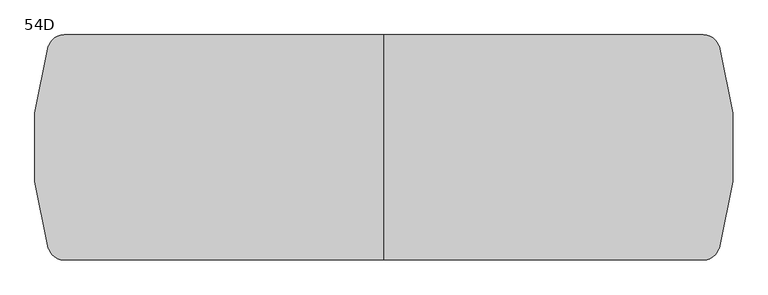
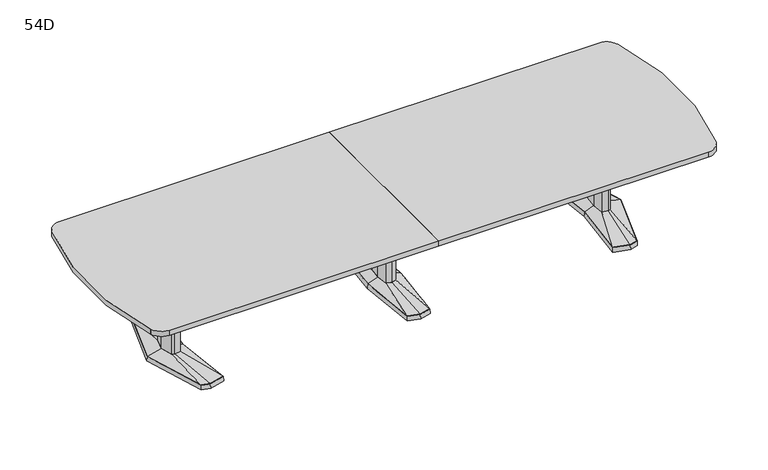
"""IFC4 building model written with IfcOpenShell, lengths in millimetres: furniture geometry, Coalesse_AM_Table_Conference_ETable2_SoftRadiused_14ft_AluminiumBase : 54D."""

from ifc_helpers import new_model, si_unit, point, frame, frame_2d, origin, place, context, project, spatial, polyline, circle_curve, trimmed, segment, composite_curve, outline, extrude, faceted_brep, source, transform, mapped, element, save
from ifc_brep_helpers import plane_surface, spline_surface, advanced_brep


def furniture_54d_6063a3c7(model_context):
    return source(origin(), model_context, "Body", "SolidModel", [
        faceted_brep([(-81.2333791, -433.8053819, 38.1), (0.0, -455.556576, 38.1), (81.2333791, -433.8053819, 38.1), (119.0564774, 0.0, 38.1), (81.2333791, 433.8053819, 38.1), (0.0, 455.556576, 38.1), (-81.2333791, 433.8053819, 38.1), (-119.0564774, 0.0, 38.1), (-82.7182795, -435.0512063, 3.175), (-120.65, 0.0, 3.175), (-82.7182795, 435.0512063, 3.175), (0.0, 457.2, 3.175), (82.7182795, 435.0512063, 3.175), (120.65, 0.0, 3.175), (82.7182795, -435.0512063, 3.175), (0.0, -457.2, 3.175), (0.0, 429.2617927, 3.175), (-77.9676806, 408.3850278, 3.175), (-74.7019821, 382.9646737, 3.175), (0.0, 402.9670094, 3.175), (74.7019821, 382.9646737, 3.175), (77.9676806, 408.3850278, 3.175), (0.0, -429.2617927, 3.175), (77.9676806, -408.3850278, 3.175), (74.7019821, -382.9646737, 3.175), (0.0, -402.9670094, 3.175), (-74.7019821, -382.9646737, 3.175), (-77.9676806, -408.3850278, 3.175), (-71.8574262, 114.6326257, 3.175), (-82.5426076, 0.0, 3.175), (-71.8574262, -114.6326257, 3.175), (0.0, -133.8761372, 3.175), (71.8574262, -114.6326257, 3.175), (82.5426076, 0.0, 3.175), (71.8574262, 114.6326257, 3.175), (0.0, 133.8761372, 3.175), (0.0, 429.2617927, 0.0), (77.9676806, 408.3850278, 0.0), (74.7019821, 382.9646737, 0.0), (0.0, 402.9670094, 0.0), (-74.7019821, 382.9646737, 0.0), (-77.9676806, 408.3850278, 0.0), (0.0, -429.2617927, 0.0), (-77.9676806, -408.3850278, 0.0), (-74.7019821, -382.9646737, 0.0), (0.0, -402.9670094, 0.0), (74.7019821, -382.9646737, 0.0), (77.9676806, -408.3850278, 0.0), (-71.8574262, 114.6326257, 0.0), (0.0, 133.8761372, 0.0), (71.8574262, 114.6326257, 0.0), (82.5426076, 0.0, 0.0), (71.8574262, -114.6326257, 0.0), (0.0, -133.8761372, 0.0), (-71.8574262, -114.6326257, 0.0), (-82.5426076, 0.0, 0.0)], [[[0, 1, 2, 3, 4, 5, 6, 7]], [[8, 9, 10, 11, 12, 13, 14, 15], [16, 17, 18, 19, 20, 21], [22, 23, 24, 25, 26, 27], [28, 29, 30, 31, 32, 33, 34, 35]], [[1, 0, 8, 15]], [[2, 1, 15, 14]], [[3, 2, 14, 13]], [[4, 3, 13, 12]], [[5, 4, 12, 11]], [[6, 5, 11, 10]], [[7, 6, 10, 9]], [[0, 7, 9, 8]], [[36, 37, 38, 39, 40, 41]], [[42, 43, 44, 45, 46, 47]], [[48, 49, 50, 51, 52, 53, 54, 55]], [[36, 41, 17, 16]], [[41, 40, 18, 17]], [[40, 39, 19, 18]], [[39, 38, 20, 19]], [[38, 37, 21, 20]], [[37, 36, 16, 21]], [[42, 47, 23, 22]], [[47, 46, 24, 23]], [[46, 45, 25, 24]], [[45, 44, 26, 25]], [[44, 43, 27, 26]], [[43, 42, 22, 27]], [[48, 55, 29, 28]], [[55, 54, 30, 29]], [[54, 53, 31, 30]], [[53, 52, 32, 31]], [[52, 51, 33, 32]], [[51, 50, 34, 33]], [[50, 49, 35, 34]], [[49, 48, 28, 35]]]),
        faceted_brep([(-36.3832834, 84.6900825, 698.5), (-44.2774487, 0.0, 698.5), (-36.3832834, -84.6900825, 698.5), (0.0, -94.4335728, 698.5), (36.3832834, -84.6900825, 698.5), (44.2774487, 0.0, 698.5), (36.3832834, 84.6900825, 698.5), (0.0, 94.4335728, 698.5), (-36.3832834, 84.6900825, 63.5), (0.0, 94.4335728, 63.5), (36.3832834, 84.6900825, 63.5), (44.2774487, 0.0, 63.5), (36.3832834, -84.6900825, 63.5), (0.0, -94.4335728, 63.5), (-36.3832834, -84.6900825, 63.5), (-44.2774487, 0.0, 63.5)], [[[0, 1, 2, 3, 4, 5, 6, 7]], [[8, 9, 10, 11, 12, 13, 14, 15]], [[1, 0, 8, 15]], [[2, 1, 15, 14]], [[3, 2, 14, 13]], [[4, 3, 13, 12]], [[5, 4, 12, 11]], [[6, 5, 11, 10]], [[7, 6, 10, 9]], [[0, 7, 9, 8]]]),
        advanced_brep(
        [(-36.3832834, 84.6900825, 63.5), (-44.2774487, 0.0, 63.5), (-36.3832834, -84.6900825, 63.5), (0.0, -94.4335728, 63.5), (36.3832834, -84.6900825, 63.5), (44.2774487, 0.0, 63.5), (36.3832834, 84.6900825, 63.5), (0.0, 94.4335728, 63.5), (-81.2333791, 433.8053819, 38.1), (0.0, 455.556576, 38.1), (81.2333791, 433.8053819, 38.1), (119.0564774, 0.0, 38.1), (81.2333791, -433.8053819, 38.1), (0.0, -455.556576, 38.1), (-81.2333791, -433.8053819, 38.1), (-119.0564774, 0.0, 38.1)],
        [
            (0, 1),
            (1, 2),
            (2, 3),
            (3, 4),
            (4, 5),
            (5, 6),
            (6, 7),
            (7, 0),
            (8, 9),
            (9, 10),
            (10, 11),
            (11, 12),
            (12, 13),
            (13, 14),
            (14, 15),
            (15, 8),
            (15, 1),
            (0, 8),
            (14, 2),
            (13, 3),
            (12, 4),
            (11, 5),
            (10, 6),
            (9, 7),
        ],
        [
            plane_surface(frame((0.0, 0.0, 63.5), z_axis=(0.0, 0.0, 1.0000000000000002), x_axis=(-0.9659615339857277, -0.25868574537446, 0.0))),
            plane_surface(frame((0.0, 0.0, 38.1), z_axis=(0.0, 0.0, -1.0000000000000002), x_axis=(-0.9659615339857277, -0.25868574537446, 0.0))),
            spline_surface(1, 1, [[(-81.2333791, 433.8053819, 38.1), (-36.3832834, 84.6900825, 63.5)], [(-119.0564774, 0.0, 38.1), (-44.2774487, 0.0, 63.5)]], [2, 2], [2, 2], [0.0, 1.0], [0.0, 1.0]),
            spline_surface(1, 1, [[(-119.0564774, 0.0, 38.1), (-44.2774487, 0.0, 63.5)], [(-81.2333791, -433.8053819, 38.1), (-36.3832834, -84.6900825, 63.5)]], [2, 2], [2, 2], [0.0, 1.0], [0.0, 1.0]),
            spline_surface(1, 1, [[(-81.2333791, -433.8053819, 38.1), (-36.3832834, -84.6900825, 63.5)], [(0.0, -455.556576, 38.1), (0.0, -94.4335728, 63.5)]], [2, 2], [2, 2], [0.0, 1.0], [0.0, 1.0]),
            spline_surface(1, 1, [[(0.0, -455.556576, 38.1), (0.0, -94.4335728, 63.5)], [(81.2333791, -433.8053819, 38.1), (36.3832834, -84.6900825, 63.5)]], [2, 2], [2, 2], [0.0, 1.0], [0.0, 1.0]),
            spline_surface(1, 1, [[(81.2333791, -433.8053819, 38.1), (36.3832834, -84.6900825, 63.5)], [(119.0564774, 0.0, 38.1), (44.2774487, 0.0, 63.5)]], [2, 2], [2, 2], [0.0, 1.0], [0.0, 1.0]),
            spline_surface(1, 1, [[(119.0564774, 0.0, 38.1), (44.2774487, 0.0, 63.5)], [(81.2333791, 433.8053819, 38.1), (36.3832834, 84.6900825, 63.5)]], [2, 2], [2, 2], [0.0, 1.0], [0.0, 1.0]),
            spline_surface(1, 1, [[(81.2333791, 433.8053819, 38.1), (36.3832834, 84.6900825, 63.5)], [(0.0, 455.556576, 38.1), (0.0, 94.4335728, 63.5)]], [2, 2], [2, 2], [0.0, 1.0], [0.0, 1.0]),
            spline_surface(1, 1, [[(0.0, 455.556576, 38.1), (0.0, 94.4335728, 63.5)], [(-81.2333791, 433.8053819, 38.1), (-36.3832834, 84.6900825, 63.5)]], [2, 2], [2, 2], [0.0, 1.0], [0.0, 1.0]),
        ],
        [
            (0, [[1, 2, 3, 4, 5, 6, 7, 8]]),
            (1, [[9, 10, 11, 12, 13, 14, 15, 16]]),
            (2, [[-16, 17, -1, 18]]),
            (3, [[-15, 19, -2, -17]]),
            (4, [[-14, 20, -3, -19]]),
            (5, [[-13, 21, -4, -20]]),
            (6, [[-12, 22, -5, -21]]),
            (7, [[-11, 23, -6, -22]]),
            (8, [[-10, 24, -7, -23]]),
            (9, [[-9, -18, -8, -24]]),
        ],
    ),
        faceted_brep([(1515.4306835, 455.5848221, 38.1), (1405.8531277, 426.2263816, 38.1), (1447.0163717, 0.0, 38.1), (1405.8531277, -426.2263816, 38.1), (1515.4306835, -455.5848221, 38.1), (1571.5570396, -440.5478297, 38.1), (1708.8684269, 0.0, 38.1), (1571.5570396, 440.5478297, 38.1), (1515.4306754, 457.2283104, 3.175), (1572.8124472, 441.8549756, 3.175), (1710.53125, 0.0, 3.175), (1572.8124472, -441.8549756, 3.175), (1515.4306754, -457.2283104, 3.175), (1404.14375, -427.4118891, 3.175), (1445.4214856, 0.0, 3.175), (1404.14375, 427.4118891, 3.175), (1519.020115, 428.3273875, 3.175), (1413.9718228, 402.1057253, 3.175), (1422.090518, 377.985069, 3.175), (1522.6095466, 401.0699529, 3.175), (1573.1691725, 387.524361, 3.175), (1572.3631061, 414.0360954, 3.175), (1519.020115, -428.3273875, 3.175), (1572.3631061, -414.0360954, 3.175), (1573.1691725, -387.524361, 3.175), (1522.6095466, -401.0699529, 3.175), (1422.090518, -377.985069, 3.175), (1413.9718228, -402.1057253, 3.175), (1645.6153621, 0.0, 3.175), (1613.3459611, 120.4193755, 3.175), (1564.6987222, 133.471665, 3.175), (1484.8180526, 119.4176561, 3.175), (1473.6868466, 0.0, 3.175), (1484.8180526, -119.4176561, 3.175), (1564.6987222, -133.471665, 3.175), (1613.3459611, -120.4193755, 3.175), (1519.020115, 428.3273875, 0.0), (1572.3631061, 414.0360954, 0.0), (1573.1691725, 387.524361, 0.0), (1522.6095466, 401.0699529, 0.0), (1422.090518, 377.985069, 0.0), (1413.9718228, 402.1057253, 0.0), (1519.020115, -428.3273875, 0.0), (1413.9718228, -402.1057253, 0.0), (1422.090518, -377.985069, 0.0), (1522.6095466, -401.0699529, 0.0), (1573.1691725, -387.524361, 0.0), (1572.3631061, -414.0360954, 0.0), (1645.6153621, 0.0, 0.0), (1613.3459611, -120.4193755, 0.0), (1564.6987222, -133.471665, 0.0), (1484.8180526, -119.4176561, 0.0), (1473.6868466, 0.0, 0.0), (1484.8180526, 119.4176561, 0.0), (1564.6987222, 133.471665, 0.0), (1613.3459611, 120.4193755, 0.0)], [[[0, 1, 2, 3, 4, 5, 6, 7]], [[8, 9, 10, 11, 12, 13, 14, 15], [16, 17, 18, 19, 20, 21], [22, 23, 24, 25, 26, 27], [28, 29, 30, 31, 32, 33, 34, 35]], [[7, 9, 8, 0]], [[6, 10, 9, 7]], [[5, 11, 10, 6]], [[4, 12, 11, 5]], [[3, 13, 12, 4]], [[2, 14, 13, 3]], [[1, 15, 14, 2]], [[0, 8, 15, 1]], [[36, 37, 38, 39, 40, 41]], [[42, 43, 44, 45, 46, 47]], [[48, 49, 50, 51, 52, 53, 54, 55]], [[36, 16, 21, 37]], [[37, 21, 20, 38]], [[38, 20, 19, 39]], [[39, 19, 18, 40]], [[40, 18, 17, 41]], [[41, 17, 16, 36]], [[42, 22, 27, 43]], [[43, 27, 26, 44]], [[44, 26, 25, 45]], [[45, 25, 24, 46]], [[46, 24, 23, 47]], [[47, 23, 22, 42]], [[48, 28, 35, 49]], [[49, 35, 34, 50]], [[50, 34, 33, 51]], [[51, 33, 32, 52]], [[52, 32, 31, 53]], [[53, 31, 30, 54]], [[54, 30, 29, 55]], [[55, 29, 28, 48]]]),
        faceted_brep([(1606.1710836, 0.0, 698.5), (1582.2358546, 89.3188359, 698.5), (1565.3824984, 93.8406728, 698.5), (1562.9826511, 94.4845635, 698.5), (1520.055146, 86.9320037, 698.5), (1511.9520056, 0.0, 698.5), (1520.055146, -86.9320037, 698.5), (1562.9826511, -94.4845635, 698.5), (1565.3824984, -93.8406728, 698.5), (1582.2358546, -89.3188359, 698.5), (1606.1710836, 0.0, 63.5), (1582.2358546, -89.3188359, 63.5), (1565.3824984, -93.8406728, 63.5), (1562.9826511, -94.4845635, 63.5), (1520.055146, -86.9320037, 63.5), (1511.9520056, 0.0, 63.5), (1520.055146, 86.9320037, 63.5), (1562.9826511, 94.4845635, 63.5), (1565.3824984, 93.8406728, 63.5), (1582.2358546, 89.3188359, 63.5)], [[[0, 1, 2, 3, 4, 5, 6, 7, 8, 9]], [[10, 11, 12, 13, 14, 15, 16, 17, 18, 19]], [[9, 11, 10, 0]], [[8, 12, 11, 9]], [[7, 13, 12, 8]], [[6, 14, 13, 7]], [[5, 15, 14, 6]], [[4, 16, 15, 5]], [[3, 17, 16, 4]], [[2, 18, 17, 3]], [[1, 19, 18, 2]], [[0, 10, 19, 1]]]),
        advanced_brep(
        [(1562.9826511, 94.4845635, 63.5), (1520.055146, 86.9320037, 63.5), (1511.9520056, 0.0, 63.5), (1520.055146, -86.9320037, 63.5), (1562.9826511, -94.4845635, 63.5), (1582.2358546, -89.3188359, 63.5), (1606.1710836, 0.0, 63.5), (1582.2358546, 89.3188359, 63.5), (1515.4306835, 455.5848221, 38.1), (1571.5570396, 440.5478297, 38.1), (1708.8684269, 0.0, 38.1), (1571.5570396, -440.5478297, 38.1), (1515.4306835, -455.5848221, 38.1), (1405.8531277, -426.2263816, 38.1), (1447.0163717, 0.0, 38.1), (1405.8531277, 426.2263816, 38.1)],
        [
            (0, 1),
            (1, 2),
            (2, 3),
            (3, 4),
            (4, 5),
            (5, 6),
            (6, 7),
            (7, 0),
            (8, 9),
            (9, 10),
            (10, 11),
            (11, 12),
            (12, 13),
            (13, 14),
            (14, 15),
            (15, 8),
            (8, 0),
            (7, 9),
            (6, 10),
            (5, 11),
            (4, 12),
            (3, 13),
            (2, 14),
            (1, 15),
        ],
        [
            plane_surface(frame((1556.0837991, 0.0, 63.5), z_axis=(0.0, 0.0, 1.0), x_axis=(-0.25884244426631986, -0.9659195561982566, 0.0))),
            plane_surface(frame((1517.6958125, 0.0, 38.1), z_axis=(0.0, 0.0, -1.0), x_axis=(-0.25884244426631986, -0.9659195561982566, 0.0))),
            spline_surface(1, 1, [[(1515.4306835, 455.5848221, 38.1), (1571.5570396, 440.5478297, 38.1)], [(1562.9826511, 94.4845635, 63.5), (1582.2358546, 89.3188359, 63.5)]], [2, 2], [2, 2], [0.0, 1.0], [0.0, 1.0]),
            spline_surface(1, 1, [[(1571.5570396, 440.5478297, 38.1), (1708.8684269, 0.0, 38.1)], [(1582.2358546, 89.3188359, 63.5), (1606.1710836, 0.0, 63.5)]], [2, 2], [2, 2], [0.0, 1.0], [0.0, 1.0]),
            spline_surface(1, 1, [[(1708.8684269, 0.0, 38.1), (1571.5570396, -440.5478297, 38.1)], [(1606.1710836, 0.0, 63.5), (1582.2358546, -89.3188359, 63.5)]], [2, 2], [2, 2], [0.0, 1.0], [0.0, 1.0]),
            spline_surface(1, 1, [[(1571.5570396, -440.5478297, 38.1), (1515.4306835, -455.5848221, 38.1)], [(1582.2358546, -89.3188359, 63.5), (1562.9826511, -94.4845635, 63.5)]], [2, 2], [2, 2], [0.0, 1.0], [0.0, 1.0]),
            spline_surface(1, 1, [[(1515.4306835, -455.5848221, 38.1), (1405.8531277, -426.2263816, 38.1)], [(1562.9826511, -94.4845635, 63.5), (1520.055146, -86.9320037, 63.5)]], [2, 2], [2, 2], [0.0, 1.0], [0.0, 1.0]),
            spline_surface(1, 1, [[(1405.8531277, -426.2263816, 38.1), (1447.0163717, 0.0, 38.1)], [(1520.055146, -86.9320037, 63.5), (1511.9520056, 0.0, 63.5)]], [2, 2], [2, 2], [0.0, 1.0], [0.0, 1.0]),
            spline_surface(1, 1, [[(1447.0163717, 0.0, 38.1), (1405.8531277, 426.2263816, 38.1)], [(1511.9520056, 0.0, 63.5), (1520.055146, 86.9320037, 63.5)]], [2, 2], [2, 2], [0.0, 1.0], [0.0, 1.0]),
            spline_surface(1, 1, [[(1405.8531277, 426.2263816, 38.1), (1515.4306835, 455.5848221, 38.1)], [(1520.055146, 86.9320037, 63.5), (1562.9826511, 94.4845635, 63.5)]], [2, 2], [2, 2], [0.0, 1.0], [0.0, 1.0]),
        ],
        [
            (0, [[1, 2, 3, 4, 5, 6, 7, 8]]),
            (1, [[9, 10, 11, 12, 13, 14, 15, 16]]),
            (2, [[17, -8, 18, -9]]),
            (3, [[-18, -7, 19, -10]]),
            (4, [[-19, -6, 20, -11]]),
            (5, [[-20, -5, 21, -12]]),
            (6, [[-21, -4, 22, -13]]),
            (7, [[-22, -3, 23, -14]]),
            (8, [[-23, -2, 24, -15]]),
            (9, [[-24, -1, -17, -16]]),
        ],
    ),
        faceted_brep([(-1515.4306835, 455.5848221, 38.1), (-1571.5570396, 440.5478297, 38.1), (-1708.8684269, 0.0, 38.1), (-1571.5570396, -440.5478297, 38.1), (-1515.4306835, -455.5848221, 38.1), (-1405.8531277, -426.2263816, 38.1), (-1447.0163717, 0.0, 38.1), (-1405.8531277, 426.2263816, 38.1), (-1515.4306754, 457.2283104, 3.175), (-1404.14375, 427.4118891, 3.175), (-1445.4214856, 0.0, 3.175), (-1404.14375, -427.4118891, 3.175), (-1515.4306754, -457.2283104, 3.175), (-1572.8124472, -441.8549756, 3.175), (-1710.53125, 0.0, 3.175), (-1572.8124472, 441.8549756, 3.175), (-1519.020115, 428.3273875, 3.175), (-1572.3631061, 414.0360954, 3.175), (-1573.1691725, 387.524361, 3.175), (-1522.6095466, 401.0699529, 3.175), (-1422.090518, 377.985069, 3.175), (-1413.9718228, 402.1057253, 3.175), (-1519.020115, -428.3273875, 3.175), (-1413.9718228, -402.1057253, 3.175), (-1422.090518, -377.985069, 3.175), (-1522.6095466, -401.0699529, 3.175), (-1573.1691725, -387.524361, 3.175), (-1572.3631061, -414.0360954, 3.175), (-1645.6153621, 0.0, 3.175), (-1613.3459611, -120.4193755, 3.175), (-1564.6987222, -133.471665, 3.175), (-1484.8180526, -119.4176561, 3.175), (-1473.6868466, 0.0, 3.175), (-1484.8180526, 119.4176561, 3.175), (-1564.6987222, 133.471665, 3.175), (-1613.3459611, 120.4193755, 3.175), (-1519.020115, 428.3273875, 0.0), (-1413.9718228, 402.1057253, 0.0), (-1422.090518, 377.985069, 0.0), (-1522.6095466, 401.0699529, 0.0), (-1573.1691725, 387.524361, 0.0), (-1572.3631061, 414.0360954, 0.0), (-1519.020115, -428.3273875, 0.0), (-1572.3631061, -414.0360954, 0.0), (-1573.1691725, -387.524361, 0.0), (-1522.6095466, -401.0699529, 0.0), (-1422.090518, -377.985069, 0.0), (-1413.9718228, -402.1057253, 0.0), (-1645.6153621, 0.0, 0.0), (-1613.3459611, 120.4193755, 0.0), (-1564.6987222, 133.471665, 0.0), (-1484.8180526, 119.4176561, 0.0), (-1473.6868466, 0.0, 0.0), (-1484.8180526, -119.4176561, 0.0), (-1564.6987222, -133.471665, 0.0), (-1613.3459611, -120.4193755, 0.0)], [[[0, 1, 2, 3, 4, 5, 6, 7]], [[8, 9, 10, 11, 12, 13, 14, 15], [16, 17, 18, 19, 20, 21], [22, 23, 24, 25, 26, 27], [28, 29, 30, 31, 32, 33, 34, 35]], [[1, 0, 8, 15]], [[2, 1, 15, 14]], [[3, 2, 14, 13]], [[4, 3, 13, 12]], [[5, 4, 12, 11]], [[6, 5, 11, 10]], [[7, 6, 10, 9]], [[0, 7, 9, 8]], [[36, 37, 38, 39, 40, 41]], [[42, 43, 44, 45, 46, 47]], [[48, 49, 50, 51, 52, 53, 54, 55]], [[36, 41, 17, 16]], [[41, 40, 18, 17]], [[40, 39, 19, 18]], [[39, 38, 20, 19]], [[38, 37, 21, 20]], [[37, 36, 16, 21]], [[42, 47, 23, 22]], [[47, 46, 24, 23]], [[46, 45, 25, 24]], [[45, 44, 26, 25]], [[44, 43, 27, 26]], [[43, 42, 22, 27]], [[48, 55, 29, 28]], [[55, 54, 30, 29]], [[54, 53, 31, 30]], [[53, 52, 32, 31]], [[52, 51, 33, 32]], [[51, 50, 34, 33]], [[50, 49, 35, 34]], [[49, 48, 28, 35]]]),
        faceted_brep([(-1606.1710836, 0.0, 698.5), (-1582.2358546, -89.3188359, 698.5), (-1565.3824984, -93.8406728, 698.5), (-1562.9826511, -94.4845635, 698.5), (-1520.055146, -86.9320037, 698.5), (-1511.9520056, 0.0, 698.5), (-1520.055146, 86.9320037, 698.5), (-1562.9826511, 94.4845635, 698.5), (-1565.3824984, 93.8406728, 698.5), (-1582.2358546, 89.3188359, 698.5), (-1606.1710836, 0.0, 63.5), (-1582.2358546, 89.3188359, 63.5), (-1565.3824984, 93.8406728, 63.5), (-1562.9826511, 94.4845635, 63.5), (-1520.055146, 86.9320037, 63.5), (-1511.9520056, 0.0, 63.5), (-1520.055146, -86.9320037, 63.5), (-1562.9826511, -94.4845635, 63.5), (-1565.3824984, -93.8406728, 63.5), (-1582.2358546, -89.3188359, 63.5)], [[[0, 1, 2, 3, 4, 5, 6, 7, 8, 9]], [[10, 11, 12, 13, 14, 15, 16, 17, 18, 19]], [[1, 0, 10, 19]], [[2, 1, 19, 18]], [[3, 2, 18, 17]], [[4, 3, 17, 16]], [[5, 4, 16, 15]], [[6, 5, 15, 14]], [[7, 6, 14, 13]], [[8, 7, 13, 12]], [[9, 8, 12, 11]], [[0, 9, 11, 10]]]),
        advanced_brep(
        [(-1562.9826511, 94.4845635, 63.5), (-1582.2358546, 89.3188359, 63.5), (-1606.1710836, 0.0, 63.5), (-1582.2358546, -89.3188359, 63.5), (-1562.9826511, -94.4845635, 63.5), (-1520.055146, -86.9320037, 63.5), (-1511.9520056, 0.0, 63.5), (-1520.055146, 86.9320037, 63.5), (-1515.4306835, 455.5848221, 38.1), (-1405.8531277, 426.2263816, 38.1), (-1447.0163717, 0.0, 38.1), (-1405.8531277, -426.2263816, 38.1), (-1515.4306835, -455.5848221, 38.1), (-1571.5570396, -440.5478297, 38.1), (-1708.8684269, 0.0, 38.1), (-1571.5570396, 440.5478297, 38.1)],
        [
            (0, 1),
            (1, 2),
            (2, 3),
            (3, 4),
            (4, 5),
            (5, 6),
            (6, 7),
            (7, 0),
            (8, 9),
            (9, 10),
            (10, 11),
            (11, 12),
            (12, 13),
            (13, 14),
            (14, 15),
            (15, 8),
            (15, 1),
            (0, 8),
            (14, 2),
            (13, 3),
            (12, 4),
            (11, 5),
            (10, 6),
            (9, 7),
        ],
        [
            plane_surface(frame((-1556.0837991, 0.0, 63.5), z_axis=(0.0, 0.0, 1.0), x_axis=(0.25884244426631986, -0.9659195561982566, 0.0))),
            plane_surface(frame((-1517.6958125, 0.0, 38.1), z_axis=(0.0, 0.0, -1.0), x_axis=(0.25884244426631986, -0.9659195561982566, 0.0))),
            spline_surface(1, 1, [[(-1515.4306835, 455.5848221, 38.1), (-1562.9826511, 94.4845635, 63.5)], [(-1571.5570396, 440.5478297, 38.1), (-1582.2358546, 89.3188359, 63.5)]], [2, 2], [2, 2], [0.0, 1.0], [0.0, 1.0]),
            spline_surface(1, 1, [[(-1571.5570396, 440.5478297, 38.1), (-1582.2358546, 89.3188359, 63.5)], [(-1708.8684269, 0.0, 38.1), (-1606.1710836, 0.0, 63.5)]], [2, 2], [2, 2], [0.0, 1.0], [0.0, 1.0]),
            spline_surface(1, 1, [[(-1708.8684269, 0.0, 38.1), (-1606.1710836, 0.0, 63.5)], [(-1571.5570396, -440.5478297, 38.1), (-1582.2358546, -89.3188359, 63.5)]], [2, 2], [2, 2], [0.0, 1.0], [0.0, 1.0]),
            spline_surface(1, 1, [[(-1571.5570396, -440.5478297, 38.1), (-1582.2358546, -89.3188359, 63.5)], [(-1515.4306835, -455.5848221, 38.1), (-1562.9826511, -94.4845635, 63.5)]], [2, 2], [2, 2], [0.0, 1.0], [0.0, 1.0]),
            spline_surface(1, 1, [[(-1515.4306835, -455.5848221, 38.1), (-1562.9826511, -94.4845635, 63.5)], [(-1405.8531277, -426.2263816, 38.1), (-1520.055146, -86.9320037, 63.5)]], [2, 2], [2, 2], [0.0, 1.0], [0.0, 1.0]),
            spline_surface(1, 1, [[(-1405.8531277, -426.2263816, 38.1), (-1520.055146, -86.9320037, 63.5)], [(-1447.0163717, 0.0, 38.1), (-1511.9520056, 0.0, 63.5)]], [2, 2], [2, 2], [0.0, 1.0], [0.0, 1.0]),
            spline_surface(1, 1, [[(-1447.0163717, 0.0, 38.1), (-1511.9520056, 0.0, 63.5)], [(-1405.8531277, 426.2263816, 38.1), (-1520.055146, 86.9320037, 63.5)]], [2, 2], [2, 2], [0.0, 1.0], [0.0, 1.0]),
            spline_surface(1, 1, [[(-1405.8531277, 426.2263816, 38.1), (-1520.055146, 86.9320037, 63.5)], [(-1515.4306835, 455.5848221, 38.1), (-1562.9826511, 94.4845635, 63.5)]], [2, 2], [2, 2], [0.0, 1.0], [0.0, 1.0]),
        ],
        [
            (0, [[1, 2, 3, 4, 5, 6, 7, 8]]),
            (1, [[9, 10, 11, 12, 13, 14, 15, 16]]),
            (2, [[-16, 17, -1, 18]]),
            (3, [[-15, 19, -2, -17]]),
            (4, [[-14, 20, -3, -19]]),
            (5, [[-13, 21, -4, -20]]),
            (6, [[-12, 22, -5, -21]]),
            (7, [[-11, 23, -6, -22]]),
            (8, [[-10, 24, -7, -23]]),
            (9, [[-9, -18, -8, -24]]),
        ],
    ),
        extrude(outline(polyline([(96.8375, 698.5), (103.1875, 698.5), (103.1875, 476.25), (-103.1875, 476.25), (-103.1875, 698.5), (-96.8375, 698.5), (-96.8375, 482.6), (96.8375, 482.6), (96.8375, 698.5)])), frame((44.2774487, 0.0, 0.0), z_axis=(1.0, 0.0, 0.0), x_axis=(0.0, 1.0, 0.0)), (0.0, 0.0, 1.0), 1467.8163013),
        extrude(outline(composite_curve([segment(trimmed(circle_curve(frame_2d((1944.4557965, 584.2)), 101.6), [point((1944.4557965, 685.8))], [point((2040.2453259, 618.0662966))], False, "CARTESIAN"), True, "CONTINUOUS"), segment(polyline([(2040.2453259, 618.0662966), (2040.9956256, 615.9441026)]), True, "CONTINUOUS"), segment(trimmed(circle_curve(frame_2d((38.8679193, 0.0)), 2094.7320807), [point((2040.9956256, 615.9441026))], [point((2040.9956256, -615.9441026))], False, "CARTESIAN"), True, "CONTINUOUS"), segment(polyline([(2040.9956256, -615.9441026), (2040.2453259, -618.0662966)]), True, "CONTINUOUS"), segment(trimmed(circle_curve(frame_2d((1944.4557965, -584.2)), 101.6), [point((2040.2453259, -618.0662966))], [point((1944.4557965, -685.8))], False, "CARTESIAN"), True, "CONTINUOUS"), segment(polyline([(1944.4557965, -685.8), (0.0, -685.8), (0.0, 685.8), (1944.4557965, 685.8)]), True, "CONTINUOUS")], self_intersect=False)), frame((0.0, 0.0, 698.5), z_axis=(0.0, 0.0, 1.0), x_axis=(1.0, 0.0, 0.0)), (0.0, 0.0, 1.0), 38.1),
        extrude(outline(composite_curve([segment(polyline([(-1944.4557965, 685.8), (0.0, 685.8), (0.0, -685.8), (-1944.4557965, -685.8)]), True, "CONTINUOUS"), segment(trimmed(circle_curve(frame_2d((-1944.4557965, -584.2)), 101.6), [point((-1944.4557965, -685.8))], [point((-2040.2453259, -618.0662966))], False, "CARTESIAN"), True, "CONTINUOUS"), segment(polyline([(-2040.2453259, -618.0662966), (-2040.9956256, -615.9441026)]), True, "CONTINUOUS"), segment(trimmed(circle_curve(frame_2d((-38.8679193, 0.0)), 2094.7320807), [point((-2040.9956256, -615.9441026))], [point((-2040.9956256, 615.9441026))], False, "CARTESIAN"), True, "CONTINUOUS"), segment(polyline([(-2040.9956256, 615.9441026), (-2040.2453259, 618.0662966)]), True, "CONTINUOUS"), segment(trimmed(circle_curve(frame_2d((-1944.4557965, 584.2)), 101.6), [point((-2040.2453259, 618.0662966))], [point((-1944.4557965, 685.8))], False, "CARTESIAN"), True, "CONTINUOUS")], self_intersect=False)), frame((0.0, 0.0, 698.5), z_axis=(0.0, 0.0, 1.0), x_axis=(1.0, 0.0, 0.0)), (0.0, 0.0, 1.0), 38.1),
        extrude(outline(polyline([(96.8375, 698.5), (103.1875, 698.5), (103.1875, 476.25), (-103.1875, 476.25), (-103.1875, 698.5), (-96.8375, 698.5), (-96.8375, 482.6), (96.8375, 482.6), (96.8375, 698.5)])), frame((-1512.09375, 0.0, 0.0), z_axis=(1.0, 0.0, 0.0), x_axis=(0.0, 1.0, 0.0)), (0.0, 0.0, 1.0), 1467.8163013),
    ])


if __name__ == "__main__":
    model = new_model("IFC4")
    model_context = context("Model", 3, world=origin())
    ifc_project = project(units=[si_unit("LENGTHUNIT", "METRE", prefix="MILLI")], contexts=[model_context])
    site = spatial("IfcSite", under=ifc_project)
    building = spatial("IfcBuilding", under=site)
    placement = place(None, origin())
    furniture_54d_shape = furniture_54d_6063a3c7(model_context)
    element("IfcFurniture", 1, ObjectType="Coalesse_AM_Table_Conference_ETable2_SoftRadiused_14ft_AluminiumBase : 54D", at=placement, inside=building, context=model_context, shape_type="MappedRepresentation", body=[
        mapped(furniture_54d_shape, transform((0.0, 0.0, 0.0), x_axis=(1.0, 0.0, 0.0), y_axis=(0.0, 1.0, 0.0), z_axis=(0.0, 0.0, 1.0))),
    ])
    save(model, "model.ifc")
